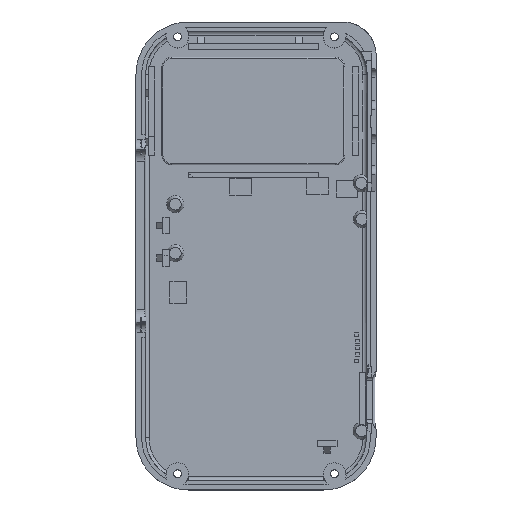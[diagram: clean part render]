
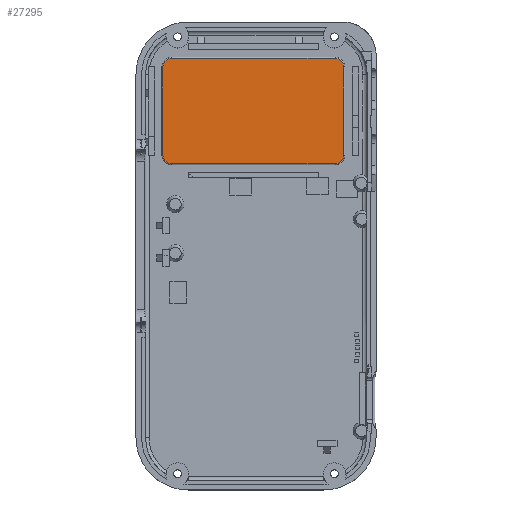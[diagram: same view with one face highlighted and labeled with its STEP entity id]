
A CAD part, top view. The second image highlights one B-rep face of the part: STEP entity #27295.
In plain terms, the highlighted planar face has unit normal (0, 0, 1).
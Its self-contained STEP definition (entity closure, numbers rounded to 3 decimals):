
#21387 = CYLINDRICAL_SURFACE('',#21388,0.3);
#21388 = AXIS2_PLACEMENT_3D('',#21389,#21390,#21391);
#21389 = CARTESIAN_POINT('',(7.5,128.75,2.1));
#21390 = DIRECTION('',(0.,-1.,0.));
#21391 = DIRECTION('',(-1.,0.,0.));
#21421 = TOROIDAL_SURFACE('',#21422,2.7,0.3);
#21422 = AXIS2_PLACEMENT_3D('',#21423,#21424,#21425);
#21423 = CARTESIAN_POINT('',(10.2,128.75,2.1));
#21424 = DIRECTION('',(0.,0.,1.));
#21425 = DIRECTION('',(0.,1.,0.));
#21496 = TOROIDAL_SURFACE('',#21497,2.7,0.3);
#21497 = AXIS2_PLACEMENT_3D('',#21498,#21499,#21500);
#21498 = CARTESIAN_POINT('',(10.2,101.75,2.1));
#21499 = DIRECTION('',(0.,0.,1.));
#21500 = DIRECTION('',(-1.,0.,0.));
#21551 = CYLINDRICAL_SURFACE('',#21552,0.3);
#21552 = AXIS2_PLACEMENT_3D('',#21553,#21554,#21555);
#21553 = CARTESIAN_POINT('',(60.2,131.45,2.1));
#21554 = DIRECTION('',(-1.,0.,0.));
#21555 = DIRECTION('',(0.,1.,0.));
#21605 = CYLINDRICAL_SURFACE('',#21606,0.3);
#21606 = AXIS2_PLACEMENT_3D('',#21607,#21608,#21609);
#21607 = CARTESIAN_POINT('',(10.2,99.05,2.1));
#21608 = DIRECTION('',(1.,0.,0.));
#21609 = DIRECTION('',(0.,-1.,0.));
#21639 = TOROIDAL_SURFACE('',#21640,2.7,0.3);
#21640 = AXIS2_PLACEMENT_3D('',#21641,#21642,#21643);
#21641 = CARTESIAN_POINT('',(60.2,128.75,2.1));
#21642 = DIRECTION('',(0.,0.,1.));
#21643 = DIRECTION('',(1.,0.,-0.));
#21712 = TOROIDAL_SURFACE('',#21713,2.7,0.3);
#21713 = AXIS2_PLACEMENT_3D('',#21714,#21715,#21716);
#21714 = CARTESIAN_POINT('',(60.2,101.75,2.1));
#21715 = DIRECTION('',(0.,0.,1.));
#21716 = DIRECTION('',(0.,-1.,0.));
#21745 = CYLINDRICAL_SURFACE('',#21746,0.3);
#21746 = AXIS2_PLACEMENT_3D('',#21747,#21748,#21749);
#21747 = CARTESIAN_POINT('',(62.9,101.75,2.1));
#21748 = DIRECTION('',(0.,1.,0.));
#21749 = DIRECTION('',(1.,0.,0.));
#25629 = VERTEX_POINT('',#25630);
#25630 = CARTESIAN_POINT('',(7.5,101.75,2.4));
#25650 = EDGE_CURVE('',#25651,#25629,#25653,.T.);
#25651 = VERTEX_POINT('',#25652);
#25652 = CARTESIAN_POINT('',(7.5,128.75,2.4));
#25653 = SURFACE_CURVE('',#25654,(#25658,#25665),.PCURVE_S1.);
#25654 = LINE('',#25655,#25656);
#25655 = CARTESIAN_POINT('',(7.5,128.75,2.4));
#25656 = VECTOR('',#25657,1.);
#25657 = DIRECTION('',(0.,-1.,0.));
#25658 = PCURVE('',#21387,#25659);
#25659 = DEFINITIONAL_REPRESENTATION('',(#25660),#25664);
#25660 = LINE('',#25661,#25662);
#25661 = CARTESIAN_POINT('',(4.712,0.));
#25662 = VECTOR('',#25663,1.);
#25663 = DIRECTION('',(-0.,1.));
#25664 = ( GEOMETRIC_REPRESENTATION_CONTEXT(2) 
PARAMETRIC_REPRESENTATION_CONTEXT() REPRESENTATION_CONTEXT('2D SPACE',''
  ) );
#25665 = PCURVE('',#25666,#25671);
#25666 = PLANE('',#25667);
#25667 = AXIS2_PLACEMENT_3D('',#25668,#25669,#25670);
#25668 = CARTESIAN_POINT('',(35.2,115.25,2.4));
#25669 = DIRECTION('',(0.,0.,1.));
#25670 = DIRECTION('',(1.,0.,-0.));
#25671 = DEFINITIONAL_REPRESENTATION('',(#25672),#25676);
#25672 = LINE('',#25673,#25674);
#25673 = CARTESIAN_POINT('',(-27.7,13.5));
#25674 = VECTOR('',#25675,1.);
#25675 = DIRECTION('',(0.,-1.));
#25676 = ( GEOMETRIC_REPRESENTATION_CONTEXT(2) 
PARAMETRIC_REPRESENTATION_CONTEXT() REPRESENTATION_CONTEXT('2D SPACE',''
  ) );
#25702 = VERTEX_POINT('',#25703);
#25703 = CARTESIAN_POINT('',(10.2,131.45,2.4));
#25725 = EDGE_CURVE('',#25702,#25651,#25726,.T.);
#25726 = SURFACE_CURVE('',#25727,(#25732,#25739),.PCURVE_S1.);
#25727 = CIRCLE('',#25728,2.7);
#25728 = AXIS2_PLACEMENT_3D('',#25729,#25730,#25731);
#25729 = CARTESIAN_POINT('',(10.2,128.75,2.4));
#25730 = DIRECTION('',(0.,-0.,1.));
#25731 = DIRECTION('',(0.,1.,0.));
#25732 = PCURVE('',#21421,#25733);
#25733 = DEFINITIONAL_REPRESENTATION('',(#25734),#25738);
#25734 = LINE('',#25735,#25736);
#25735 = CARTESIAN_POINT('',(0.,1.571));
#25736 = VECTOR('',#25737,1.);
#25737 = DIRECTION('',(1.,0.));
#25738 = ( GEOMETRIC_REPRESENTATION_CONTEXT(2) 
PARAMETRIC_REPRESENTATION_CONTEXT() REPRESENTATION_CONTEXT('2D SPACE',''
  ) );
#25739 = PCURVE('',#25666,#25740);
#25740 = DEFINITIONAL_REPRESENTATION('',(#25741),#25745);
#25741 = CIRCLE('',#25742,2.7);
#25742 = AXIS2_PLACEMENT_2D('',#25743,#25744);
#25743 = CARTESIAN_POINT('',(-25.,13.5));
#25744 = DIRECTION('',(0.,1.));
#25745 = ( GEOMETRIC_REPRESENTATION_CONTEXT(2) 
PARAMETRIC_REPRESENTATION_CONTEXT() REPRESENTATION_CONTEXT('2D SPACE',''
  ) );
#25753 = VERTEX_POINT('',#25754);
#25754 = CARTESIAN_POINT('',(10.2,99.05,2.4));
#25774 = EDGE_CURVE('',#25629,#25753,#25775,.T.);
#25775 = SURFACE_CURVE('',#25776,(#25781,#25788),.PCURVE_S1.);
#25776 = CIRCLE('',#25777,2.7);
#25777 = AXIS2_PLACEMENT_3D('',#25778,#25779,#25780);
#25778 = CARTESIAN_POINT('',(10.2,101.75,2.4));
#25779 = DIRECTION('',(0.,0.,1.));
#25780 = DIRECTION('',(-1.,0.,0.));
#25781 = PCURVE('',#21496,#25782);
#25782 = DEFINITIONAL_REPRESENTATION('',(#25783),#25787);
#25783 = LINE('',#25784,#25785);
#25784 = CARTESIAN_POINT('',(0.,1.571));
#25785 = VECTOR('',#25786,1.);
#25786 = DIRECTION('',(1.,0.));
#25787 = ( GEOMETRIC_REPRESENTATION_CONTEXT(2) 
PARAMETRIC_REPRESENTATION_CONTEXT() REPRESENTATION_CONTEXT('2D SPACE',''
  ) );
#25788 = PCURVE('',#25666,#25789);
#25789 = DEFINITIONAL_REPRESENTATION('',(#25790),#25794);
#25790 = CIRCLE('',#25791,2.7);
#25791 = AXIS2_PLACEMENT_2D('',#25792,#25793);
#25792 = CARTESIAN_POINT('',(-25.,-13.5));
#25793 = DIRECTION('',(-1.,0.));
#25794 = ( GEOMETRIC_REPRESENTATION_CONTEXT(2) 
PARAMETRIC_REPRESENTATION_CONTEXT() REPRESENTATION_CONTEXT('2D SPACE',''
  ) );
#25801 = EDGE_CURVE('',#25802,#25702,#25804,.T.);
#25802 = VERTEX_POINT('',#25803);
#25803 = CARTESIAN_POINT('',(60.2,131.45,2.4));
#25804 = SURFACE_CURVE('',#25805,(#25809,#25816),.PCURVE_S1.);
#25805 = LINE('',#25806,#25807);
#25806 = CARTESIAN_POINT('',(60.2,131.45,2.4));
#25807 = VECTOR('',#25808,1.);
#25808 = DIRECTION('',(-1.,0.,0.));
#25809 = PCURVE('',#21551,#25810);
#25810 = DEFINITIONAL_REPRESENTATION('',(#25811),#25815);
#25811 = LINE('',#25812,#25813);
#25812 = CARTESIAN_POINT('',(4.712,0.));
#25813 = VECTOR('',#25814,1.);
#25814 = DIRECTION('',(-0.,1.));
#25815 = ( GEOMETRIC_REPRESENTATION_CONTEXT(2) 
PARAMETRIC_REPRESENTATION_CONTEXT() REPRESENTATION_CONTEXT('2D SPACE',''
  ) );
#25816 = PCURVE('',#25666,#25817);
#25817 = DEFINITIONAL_REPRESENTATION('',(#25818),#25822);
#25818 = LINE('',#25819,#25820);
#25819 = CARTESIAN_POINT('',(25.,16.2));
#25820 = VECTOR('',#25821,1.);
#25821 = DIRECTION('',(-1.,0.));
#25822 = ( GEOMETRIC_REPRESENTATION_CONTEXT(2) 
PARAMETRIC_REPRESENTATION_CONTEXT() REPRESENTATION_CONTEXT('2D SPACE',''
  ) );
#25849 = VERTEX_POINT('',#25850);
#25850 = CARTESIAN_POINT('',(60.2,99.05,2.4));
#25870 = EDGE_CURVE('',#25753,#25849,#25871,.T.);
#25871 = SURFACE_CURVE('',#25872,(#25876,#25883),.PCURVE_S1.);
#25872 = LINE('',#25873,#25874);
#25873 = CARTESIAN_POINT('',(10.2,99.05,2.4));
#25874 = VECTOR('',#25875,1.);
#25875 = DIRECTION('',(1.,0.,0.));
#25876 = PCURVE('',#21605,#25877);
#25877 = DEFINITIONAL_REPRESENTATION('',(#25878),#25882);
#25878 = LINE('',#25879,#25880);
#25879 = CARTESIAN_POINT('',(4.712,0.));
#25880 = VECTOR('',#25881,1.);
#25881 = DIRECTION('',(-0.,1.));
#25882 = ( GEOMETRIC_REPRESENTATION_CONTEXT(2) 
PARAMETRIC_REPRESENTATION_CONTEXT() REPRESENTATION_CONTEXT('2D SPACE',''
  ) );
#25883 = PCURVE('',#25666,#25884);
#25884 = DEFINITIONAL_REPRESENTATION('',(#25885),#25889);
#25885 = LINE('',#25886,#25887);
#25886 = CARTESIAN_POINT('',(-25.,-16.2));
#25887 = VECTOR('',#25888,1.);
#25888 = DIRECTION('',(1.,0.));
#25889 = ( GEOMETRIC_REPRESENTATION_CONTEXT(2) 
PARAMETRIC_REPRESENTATION_CONTEXT() REPRESENTATION_CONTEXT('2D SPACE',''
  ) );
#25896 = VERTEX_POINT('',#25897);
#25897 = CARTESIAN_POINT('',(62.9,128.75,2.4));
#25919 = EDGE_CURVE('',#25896,#25802,#25920,.T.);
#25920 = SURFACE_CURVE('',#25921,(#25926,#25933),.PCURVE_S1.);
#25921 = CIRCLE('',#25922,2.7);
#25922 = AXIS2_PLACEMENT_3D('',#25923,#25924,#25925);
#25923 = CARTESIAN_POINT('',(60.2,128.75,2.4));
#25924 = DIRECTION('',(0.,0.,1.));
#25925 = DIRECTION('',(1.,0.,-0.));
#25926 = PCURVE('',#21639,#25927);
#25927 = DEFINITIONAL_REPRESENTATION('',(#25928),#25932);
#25928 = LINE('',#25929,#25930);
#25929 = CARTESIAN_POINT('',(0.,1.571));
#25930 = VECTOR('',#25931,1.);
#25931 = DIRECTION('',(1.,0.));
#25932 = ( GEOMETRIC_REPRESENTATION_CONTEXT(2) 
PARAMETRIC_REPRESENTATION_CONTEXT() REPRESENTATION_CONTEXT('2D SPACE',''
  ) );
#25933 = PCURVE('',#25666,#25934);
#25934 = DEFINITIONAL_REPRESENTATION('',(#25935),#25939);
#25935 = CIRCLE('',#25936,2.7);
#25936 = AXIS2_PLACEMENT_2D('',#25937,#25938);
#25937 = CARTESIAN_POINT('',(25.,13.5));
#25938 = DIRECTION('',(1.,0.));
#25939 = ( GEOMETRIC_REPRESENTATION_CONTEXT(2) 
PARAMETRIC_REPRESENTATION_CONTEXT() REPRESENTATION_CONTEXT('2D SPACE',''
  ) );
#25947 = VERTEX_POINT('',#25948);
#25948 = CARTESIAN_POINT('',(62.9,101.75,2.4));
#25968 = EDGE_CURVE('',#25849,#25947,#25969,.T.);
#25969 = SURFACE_CURVE('',#25970,(#25975,#25982),.PCURVE_S1.);
#25970 = CIRCLE('',#25971,2.7);
#25971 = AXIS2_PLACEMENT_3D('',#25972,#25973,#25974);
#25972 = CARTESIAN_POINT('',(60.2,101.75,2.4));
#25973 = DIRECTION('',(-0.,0.,1.));
#25974 = DIRECTION('',(0.,-1.,0.));
#25975 = PCURVE('',#21712,#25976);
#25976 = DEFINITIONAL_REPRESENTATION('',(#25977),#25981);
#25977 = LINE('',#25978,#25979);
#25978 = CARTESIAN_POINT('',(0.,1.571));
#25979 = VECTOR('',#25980,1.);
#25980 = DIRECTION('',(1.,0.));
#25981 = ( GEOMETRIC_REPRESENTATION_CONTEXT(2) 
PARAMETRIC_REPRESENTATION_CONTEXT() REPRESENTATION_CONTEXT('2D SPACE',''
  ) );
#25982 = PCURVE('',#25666,#25983);
#25983 = DEFINITIONAL_REPRESENTATION('',(#25984),#25988);
#25984 = CIRCLE('',#25985,2.7);
#25985 = AXIS2_PLACEMENT_2D('',#25986,#25987);
#25986 = CARTESIAN_POINT('',(25.,-13.5));
#25987 = DIRECTION('',(0.,-1.));
#25988 = ( GEOMETRIC_REPRESENTATION_CONTEXT(2) 
PARAMETRIC_REPRESENTATION_CONTEXT() REPRESENTATION_CONTEXT('2D SPACE',''
  ) );
#25995 = EDGE_CURVE('',#25947,#25896,#25996,.T.);
#25996 = SURFACE_CURVE('',#25997,(#26001,#26008),.PCURVE_S1.);
#25997 = LINE('',#25998,#25999);
#25998 = CARTESIAN_POINT('',(62.9,101.75,2.4));
#25999 = VECTOR('',#26000,1.);
#26000 = DIRECTION('',(0.,1.,0.));
#26001 = PCURVE('',#21745,#26002);
#26002 = DEFINITIONAL_REPRESENTATION('',(#26003),#26007);
#26003 = LINE('',#26004,#26005);
#26004 = CARTESIAN_POINT('',(4.712,0.));
#26005 = VECTOR('',#26006,1.);
#26006 = DIRECTION('',(-0.,1.));
#26007 = ( GEOMETRIC_REPRESENTATION_CONTEXT(2) 
PARAMETRIC_REPRESENTATION_CONTEXT() REPRESENTATION_CONTEXT('2D SPACE',''
  ) );
#26008 = PCURVE('',#25666,#26009);
#26009 = DEFINITIONAL_REPRESENTATION('',(#26010),#26014);
#26010 = LINE('',#26011,#26012);
#26011 = CARTESIAN_POINT('',(27.7,-13.5));
#26012 = VECTOR('',#26013,1.);
#26013 = DIRECTION('',(0.,1.));
#26014 = ( GEOMETRIC_REPRESENTATION_CONTEXT(2) 
PARAMETRIC_REPRESENTATION_CONTEXT() REPRESENTATION_CONTEXT('2D SPACE',''
  ) );
#27295 = ADVANCED_FACE('',(#27296),#25666,.T.);
#27296 = FACE_BOUND('',#27297,.T.);
#27297 = EDGE_LOOP('',(#27298,#27299,#27300,#27301,#27302,#27303,#27304,
    #27305));
#27298 = ORIENTED_EDGE('',*,*,#25774,.T.);
#27299 = ORIENTED_EDGE('',*,*,#25870,.T.);
#27300 = ORIENTED_EDGE('',*,*,#25968,.T.);
#27301 = ORIENTED_EDGE('',*,*,#25995,.T.);
#27302 = ORIENTED_EDGE('',*,*,#25919,.T.);
#27303 = ORIENTED_EDGE('',*,*,#25801,.T.);
#27304 = ORIENTED_EDGE('',*,*,#25725,.T.);
#27305 = ORIENTED_EDGE('',*,*,#25650,.T.);
